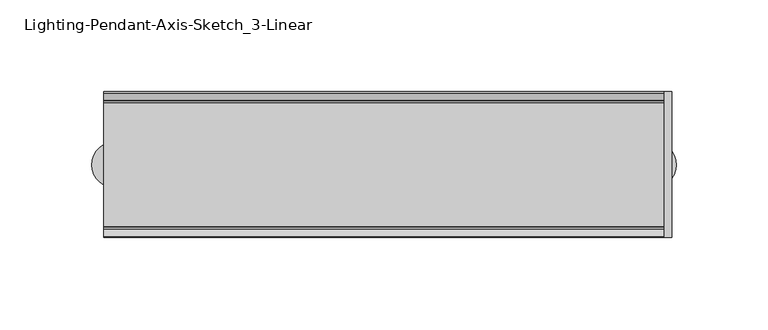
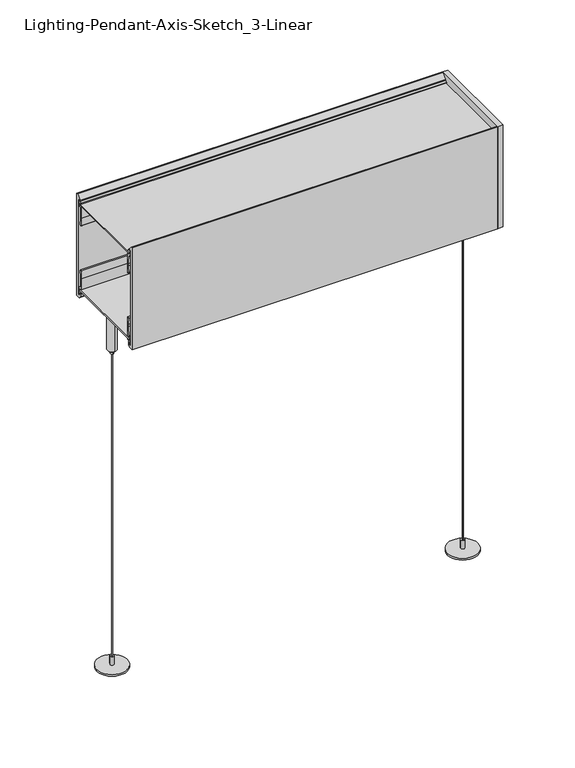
"""IFC4 building model written with IfcOpenShell, lengths in millimetres: light fixture geometry, Lighting-Pendant-Axis-Sketch_3-Linear : SK3PD-L-4-1300-80-35-SO."""

import ifcopenshell
import ifcopenshell.guid

model = None  # the IFC model being written
_history = None  # IfcOwnerHistory: only IFC2X3 demands one
_inside = {}  # id of a spatial element -> (the spatial element, [elements in it])
_under = {}  # id of a project, library or spatial element -> (it, [spatial elements below it])
_declared = {}  # id of a project -> (the project, [libraries it declares])
_typed = {}  # id of a type object -> (the type object, [elements of that type])
_made_of = {}  # id of a material, layer set ... -> (it, [elements and type objects made of it])


def new_model(schema):
    """Start an empty IFC model of exactly this schema.

    Asked for "IFC4X3", IfcOpenShell would pick the latest addendum, in which some entities
    have other attributes; the version numbers below select the first issue.
    IFC2X3 requires an IfcOwnerHistory on every rooted entity: one is made here for all.
    """
    global model, _history
    if schema == "IFC4X3":
        model = ifcopenshell.file(schema_version=(4, 3, 0, 0))
    else:
        model = ifcopenshell.file(schema=schema)
    _inside.clear()
    _under.clear()
    _declared.clear()
    _typed.clear()
    _made_of.clear()
    _history = None
    if model.schema == "IFC2X3":
        org = make("IfcOrganization", Name="unknown")
        user = make(
            "IfcPersonAndOrganization",
            ThePerson=make("IfcPerson", FamilyName="unknown"),
            TheOrganization=org,
        )
        app = make(
            "IfcApplication",
            ApplicationDeveloper=org,
            Version="unknown",
            ApplicationFullName="unknown",
            ApplicationIdentifier="unknown",
        )
        _history = make(
            "IfcOwnerHistory",
            OwningUser=user,
            OwningApplication=app,
            ChangeAction="ADDED",
            CreationDate=0,
        )
    return model


def make(cls, **values):
    """One entity of the class cls with the attributes given. An attribute that is None is left unset."""
    return model.create_entity(
        cls, **{name: value for name, value in values.items() if value is not None}
    )


def rooted(cls, **values):
    """An entity with a GlobalId (a new one), such as an element, a storey or a relation."""
    return make(cls, GlobalId=ifcopenshell.guid.new(), OwnerHistory=_history, **values)


def si_unit(unit_type, name, prefix=None):
    """IfcSIUnit, for example si_unit("LENGTHUNIT", "METRE", prefix="MILLI")."""
    return make("IfcSIUnit", UnitType=unit_type, Prefix=prefix, Name=name)


def assignment(units):
    """IfcUnitAssignment: the units of a project."""
    return None if units is None else make("IfcUnitAssignment", Units=units)


def point(xyz):
    """IfcCartesianPoint."""
    return None if xyz is None else make("IfcCartesianPoint", Coordinates=xyz)


def direction(xyz):
    """IfcDirection."""
    return None if xyz is None else make("IfcDirection", DirectionRatios=xyz)


def frame(location, z_axis=None, x_axis=None):
    """IfcAxis2Placement3D, a coordinate frame: its origin and axes. An axis left out is left unset."""
    return make(
        "IfcAxis2Placement3D",
        Location=point(location),
        Axis=direction(z_axis),
        RefDirection=direction(x_axis),
    )


def frame_2d(location, x_axis=None):
    """IfcAxis2Placement2D, a coordinate frame in the plane: its origin and x axis."""
    return make(
        "IfcAxis2Placement2D", Location=point(location), RefDirection=direction(x_axis)
    )


def origin():
    """The frame at (0, 0, 0) with its axes left unset."""
    return frame((0.0, 0.0, 0.0))


def origin_with_axes():
    """The frame at (0, 0, 0) with the z axis (0, 0, 1) and the x axis (1, 0, 0) written out."""
    return frame((0.0, 0.0, 0.0), z_axis=(0.0, 0.0, 1.0), x_axis=(1.0, 0.0, 0.0))


def place(relative_to, where):
    """IfcLocalPlacement: puts the frame where relative to a parent placement (None: the world)."""
    return make(
        "IfcLocalPlacement", PlacementRelTo=relative_to, RelativePlacement=where
    )


def context(
    kind, dimensions, precision=None, world=None, true_north=None, identifier=None
):
    """IfcGeometricRepresentationContext, for example the 3D "Model" context."""
    return make(
        "IfcGeometricRepresentationContext",
        ContextIdentifier=identifier,
        ContextType=kind,
        CoordinateSpaceDimension=dimensions,
        Precision=precision,
        WorldCoordinateSystem=world,
        TrueNorth=true_north,
    )


def project(units=None, contexts=None):
    """IfcProject with its units and contexts."""
    return rooted(
        "IfcProject",
        Name="project",
        RepresentationContexts=contexts,
        UnitsInContext=assignment(units),
    )


def spatial(cls, under=None, at=None, **own):
    """A site, building, storey or space (cls), placed at a placement, below another one or the project."""
    s = rooted(cls, ObjectPlacement=at, **own)
    if under is not None:
        _under.setdefault(under.id(), (under, []))[1].append(s)
    return s


def polyline(points):
    """IfcPolyline through the points."""
    return make("IfcPolyline", Points=[point(p) for p in points])


def circle_curve(where, radius):
    """IfcCircle in the frame where."""
    return make("IfcCircle", Position=where, Radius=radius)


def trimmed(basis, trim1, trim2, sense, master):
    """IfcTrimmedCurve: the piece of a basis curve between two trims."""
    return make(
        "IfcTrimmedCurve",
        BasisCurve=basis,
        Trim1=trim1,
        Trim2=trim2,
        SenseAgreement=sense,
        MasterRepresentation=master,
    )


def segment(curve, same_sense, transition):
    """IfcCompositeCurveSegment."""
    return make(
        "IfcCompositeCurveSegment",
        Transition=transition,
        SameSense=same_sense,
        ParentCurve=curve,
    )


def composite_curve(segments, self_intersect=None):
    """IfcCompositeCurve: segments joined end to end."""
    return make("IfcCompositeCurve", Segments=segments, SelfIntersect=self_intersect)


def outline(outer, holes=None, kind="AREA"):
    """IfcArbitraryClosedProfileDef: a profile drawn as a closed curve; with holes, ...WithVoids."""
    if holes is None:
        return make("IfcArbitraryClosedProfileDef", ProfileType=kind, OuterCurve=outer)
    return make(
        "IfcArbitraryProfileDefWithVoids",
        ProfileType=kind,
        OuterCurve=outer,
        InnerCurves=holes,
    )


def extrude(swept, where, along, depth):
    """IfcExtrudedAreaSolid: the profile swept, set in the frame where, extruded along a direction by depth."""
    return make(
        "IfcExtrudedAreaSolid",
        SweptArea=swept,
        Position=where,
        ExtrudedDirection=direction(along),
        Depth=depth,
    )


def shape(context_of_items, identifier, shape_type, items):
    """IfcShapeRepresentation: the items that make up one representation, for example the "Body"."""
    return make(
        "IfcShapeRepresentation",
        ContextOfItems=context_of_items,
        RepresentationIdentifier=identifier,
        RepresentationType=shape_type,
        Items=items,
    )


def source(mapping_origin, context_of_items, identifier, shape_type, items):
    """IfcRepresentationMap: a shape defined once, which mapped items show again and again."""
    return make(
        "IfcRepresentationMap",
        MappingOrigin=mapping_origin,
        MappedRepresentation=shape(context_of_items, identifier, shape_type, items),
    )


def transform(
    local_origin,
    x_axis=None,
    y_axis=None,
    z_axis=None,
    scale=None,
    scale2=None,
    scale3=None,
    uniform=True,
):
    """IfcCartesianTransformationOperator3D, or its non-uniform kind. x_axis, y_axis, z_axis: its Axis1, 2, 3."""
    if uniform:
        return make(
            "IfcCartesianTransformationOperator3D",
            Axis1=direction(x_axis),
            Axis2=direction(y_axis),
            LocalOrigin=point(local_origin),
            Scale=scale,
            Axis3=direction(z_axis),
        )
    return make(
        "IfcCartesianTransformationOperator3DnonUniform",
        Axis1=direction(x_axis),
        Axis2=direction(y_axis),
        LocalOrigin=point(local_origin),
        Scale=scale,
        Axis3=direction(z_axis),
        Scale2=scale2,
        Scale3=scale3,
    )


def mapped(mapping_source, mapping_target):
    """IfcMappedItem: shows the shape of a source again, moved by a transform."""
    return make(
        "IfcMappedItem", MappingSource=mapping_source, MappingTarget=mapping_target
    )


def made_of(thing, what):
    """Note that an element or type object is made of a material, layer set ...; save() writes the relation."""
    if what is not None:
        _made_of.setdefault(what.id(), (what, []))[1].append(thing)
    return thing


def element(
    cls,
    number,
    at=None,
    inside=None,
    cuts=None,
    type_object=None,
    material=None,
    context=None,
    identifier="Body",
    shape_type=None,
    held_by="IfcProductDefinitionShape",
    body=None,
    shapes=None,
    **own,
):
    """One element of the class cls, such as IfcWall. Its Tag is "e" and its number.

    at: its placement. inside: the storey or other place that contains it. cuts: it is an
    opening in that element (IfcRelVoidsElement). A single representation is given by context,
    identifier, shape_type and body (its items); several are given by shapes. held_by: the class
    of the entity that holds the representations. save() writes the other relations.
    """
    e = rooted(cls, Tag="e%d" % number, ObjectPlacement=at, **own)
    if body is not None:
        shapes = [shape(context, identifier, shape_type, body)]
    if shapes is not None:
        e.Representation = make(held_by, Representations=shapes)
    if inside is not None:
        _inside.setdefault(inside.id(), (inside, []))[1].append(e)
    if cuts is not None:
        rooted(
            "IfcRelVoidsElement", RelatingBuildingElement=cuts, RelatedOpeningElement=e
        )
    if type_object is not None:
        _typed.setdefault(type_object.id(), (type_object, []))[1].append(e)
    return made_of(e, material)


def aggregate(whole, parts):
    """IfcRelAggregates: a whole, such as a stair, and the parts it consists of."""
    return rooted("IfcRelAggregates", RelatingObject=whole, RelatedObjects=parts)


def save(model, path):
    """Write the relations noted so far, then the file.

    IfcRelAggregates (storeys below a building ...), IfcRelContainedInSpatialStructure (elements
    in a storey), IfcRelDefinesByType, IfcRelAssociatesMaterial and IfcRelDeclares: one each for
    every whole, place, type object, material and project.
    """
    for whole, parts in _under.values():
        aggregate(whole, parts)
    for where, things in _inside.values():
        rooted(
            "IfcRelContainedInSpatialStructure",
            RelatedElements=things,
            RelatingStructure=where,
        )
    for kind, things in _typed.values():
        rooted("IfcRelDefinesByType", RelatedObjects=things, RelatingType=kind)
    for what, things in _made_of.values():
        rooted("IfcRelAssociatesMaterial", RelatedObjects=things, RelatingMaterial=what)
    for by, libraries in _declared.values():
        rooted("IfcRelDeclares", RelatingContext=by, RelatedDefinitions=libraries)
    model.write(path)


def plane_surface(at):
    """IfcPlane: the flat surface through the origin of the frame at, square to its z axis."""
    return make("IfcPlane", Position=at)


def cylinder_surface(at, radius):
    """IfcCylindricalSurface: all points at the distance radius from the z axis of the frame at."""
    return make("IfcCylindricalSurface", Position=at, Radius=radius)


def advanced_brep(points, edges, surfaces, faces):
    """IfcAdvancedBrep: a solid bounded by faces that lie on surfaces and meet in shared edges.

    An edge is (start, end): straight between two places in points (the first is 0);
    or (start, end, curve); or (start, end, curve, False) where it runs against its curve.
    A face is (place in surfaces, loops), or (place, loops, False) where it looks against
    its surface's normal. A loop lists edges by number (the first is 1), with a minus sign
    where the edge is run from its end to its start. The first loop is the outer one.
    """
    corners = [point(p) for p in points]
    vertices = [make("IfcVertexPoint", VertexGeometry=c) for c in corners]
    made = []
    for start, end, *more in edges:
        made.append(
            make(
                "IfcEdgeCurve",
                EdgeStart=vertices[start],
                EdgeEnd=vertices[end],
                EdgeGeometry=more[0] if more else make("IfcPolyline", Points=[corners[start], corners[end]]),
                SameSense=more[1] if len(more) > 1 else True,
            )
        )
    hull = []
    for where, loops, *sense in faces:
        bounds = []
        for j, loop in enumerate(loops):
            ring = [make("IfcOrientedEdge", EdgeElement=made[abs(k) - 1], Orientation=k > 0) for k in loop]
            bounds.append(
                make(
                    "IfcFaceOuterBound" if j == 0 else "IfcFaceBound",
                    Bound=make("IfcEdgeLoop", EdgeList=ring),
                    Orientation=True,
                )
            )
        hull.append(make("IfcAdvancedFace", Bounds=bounds, FaceSurface=surfaces[where], SameSense=sense[0] if sense else True))
    return make("IfcAdvancedBrep", Outer=make("IfcClosedShell", CfsFaces=hull))


def lighting_pendant_axis_sketch_3_linear_22eb64dc(model_context):
    return source(origin(), model_context, "Body", "SolidModel", [
        extrude(outline(polyline([(156.5529, -39.6875), (152.4, -39.6875), (152.4, 39.6875), (156.5529, 39.6875), (156.5529, -39.6875)])), frame((0.0, 0.0, 304.8), z_axis=(0.0, 0.0, 1.0), x_axis=(1.0, 0.0, 0.0)), (0.0, 0.0, 1.0), 89.70518),
        extrude(outline(composite_curve([segment(trimmed(circle_curve(frame_2d((146.05, 0.0)), 0.396875), [point((145.653125, 0.0))], [point((146.446875, 0.0))], False, "CARTESIAN"), True, "CONTINUOUS"), segment(trimmed(circle_curve(frame_2d((146.05, 0.0)), 0.396875), [point((146.446875, 0.0))], [point((145.653125, 0.0))], False, "CARTESIAN"), True, "CONTINUOUS")], self_intersect=False)), frame((0.0, 0.0, 9.525), z_axis=(0.0, 0.0, 1.0), x_axis=(1.0, 0.0, 0.0)), (0.0, 0.0, 1.0), 295.275),
        advanced_brep(
        [(146.05, 1.2, 278.3008521), (146.05, -1.2, 278.3008521), (146.05, -2.95625, 278.3008521), (146.05, 2.95625, 278.3008521), (146.05, 1.2, 275.4508521), (146.05, -1.2, 275.4508521), (146.05, 0.0, 275.4508521), (146.05, 3.75, 311.2364681), (146.05, -3.75, 311.2364681), (146.05, 0.0, 311.2364681), (146.05, 3.75, 279.3008521), (146.05, -3.75, 279.3008521), (146.05, 2.95625, 279.3008521), (146.05, -2.95625, 279.3008521)],
        [
            (0, 1, circle_curve(frame((146.05, 0.0, 278.3008521), z_axis=(0.0, 0.0, 1.0), x_axis=(0.0, -1.0, 0.0)), 1.2)),
            (1, 2),
            (2, 3, circle_curve(frame((146.05, 0.0, 278.3008521), z_axis=(0.0, 0.0, -1.0), x_axis=(0.0, -1.0, 0.0)), 2.95625)),
            (3, 0),
            (1, 0, circle_curve(frame((146.05, 0.0, 278.3008521), z_axis=(0.0, 0.0, 1.0), x_axis=(0.0, -1.0, 0.0)), 1.2)),
            (3, 2, circle_curve(frame((146.05, 0.0, 278.3008521), z_axis=(0.0, 0.0, -1.0), x_axis=(0.0, -1.0, 0.0)), 2.95625)),
            (4, 5, circle_curve(frame((146.05, 0.0, 275.4508521), z_axis=(0.0, 0.0, 1.0), x_axis=(0.0, -1.0, 0.0)), 1.2)),
            (5, 1),
            (0, 4),
            (5, 4, circle_curve(frame((146.05, 0.0, 275.4508521), z_axis=(0.0, 0.0, 1.0), x_axis=(0.0, -1.0, 0.0)), 1.2)),
            (6, 5),
            (4, 6),
            (7, 8, circle_curve(frame((146.05, 0.0, 311.2364681), z_axis=(0.0, 0.0, 1.0), x_axis=(0.0, -1.0, 0.0)), 3.75)),
            (8, 9),
            (9, 7),
            (8, 7, circle_curve(frame((146.05, 0.0, 311.2364681), z_axis=(0.0, 0.0, 1.0), x_axis=(0.0, -1.0, 0.0)), 3.75)),
            (10, 11, circle_curve(frame((146.05, 0.0, 279.3008521), z_axis=(0.0, 0.0, 1.0), x_axis=(0.0, -1.0, 0.0)), 3.75)),
            (11, 8),
            (7, 10),
            (11, 10, circle_curve(frame((146.05, 0.0, 279.3008521), z_axis=(0.0, 0.0, 1.0), x_axis=(0.0, -1.0, 0.0)), 3.75)),
            (12, 13, circle_curve(frame((146.05, 0.0, 279.3008521), z_axis=(0.0, 0.0, 1.0), x_axis=(0.0, -1.0, 0.0)), 2.95625)),
            (13, 11),
            (10, 12),
            (13, 12, circle_curve(frame((146.05, 0.0, 279.3008521), z_axis=(0.0, 0.0, 1.0), x_axis=(0.0, -1.0, 0.0)), 2.95625)),
            (2, 13),
            (12, 3),
        ],
        [
            plane_surface(frame((146.05, 0.0, 278.3008521), z_axis=(0.0, 0.0, -1.0), x_axis=(0.0, -1.0, 0.0))),
            cylinder_surface(frame((146.05, 0.0, 2343.8067943), z_axis=(0.0, 0.0, -1.0), x_axis=(0.0, -1.0, 0.0)), 1.2),
            plane_surface(frame((146.05, 0.0, 275.4508521), z_axis=(0.0, 0.0, -1.0), x_axis=(0.0, -1.0, 0.0))),
            plane_surface(frame((146.05, 0.0, 311.2364681), z_axis=(0.0, 0.0, 1.0), x_axis=(0.0, -1.0, 0.0))),
            cylinder_surface(frame((146.05, 0.0, 2343.8067943), z_axis=(0.0, 0.0, -1.0), x_axis=(0.0, -1.0, 0.0)), 3.75),
            plane_surface(frame((146.05, 0.0, 279.3008521), z_axis=(0.0, 0.0, -1.0), x_axis=(0.0, -1.0, 0.0))),
            cylinder_surface(frame((146.05, 0.0, 2343.8067943), z_axis=(0.0, 0.0, -1.0), x_axis=(0.0, -1.0, 0.0)), 2.95625),
        ],
        [
            (0, [[1, 2, 3, 4]]),
            (0, [[5, -4, 6, -2]]),
            (1, [[7, 8, -1, 9]]),
            (1, [[10, -9, -5, -8]]),
            (2, [[11, -7, 12]]),
            (2, [[-12, -10, -11]]),
            (3, [[13, 14, 15]]),
            (3, [[16, -15, -14]]),
            (4, [[17, 18, -13, 19]]),
            (4, [[20, -19, -16, -18]]),
            (5, [[21, 22, -17, 23]]),
            (5, [[24, -23, -20, -22]]),
            (6, [[-3, 25, -21, 26]]),
            (6, [[-6, -26, -24, -25]]),
        ],
    ),
        extrude(outline(composite_curve([segment(trimmed(circle_curve(frame_2d((146.05, 0.0)), 12.7), [point((133.35, 0.0))], [point((158.75, 0.0))], False, "CARTESIAN"), True, "CONTINUOUS"), segment(trimmed(circle_curve(frame_2d((146.05, 0.0)), 12.7), [point((158.75, 0.0))], [point((133.35, 0.0))], False, "CARTESIAN"), True, "CONTINUOUS")], self_intersect=False)), origin_with_axes(), (0.0, 0.0, 1.0), 1.5875),
        extrude(outline(composite_curve([segment(trimmed(circle_curve(frame_2d((146.05, 0.0)), 1.5875), [point((144.4625, 0.0))], [point((147.6375, 0.0))], False, "CARTESIAN"), True, "CONTINUOUS"), segment(trimmed(circle_curve(frame_2d((146.05, 0.0)), 1.5875), [point((147.6375, 0.0))], [point((144.4625, 0.0))], False, "CARTESIAN"), True, "CONTINUOUS")], self_intersect=False)), frame((0.0, 0.0, 1.5875), z_axis=(0.0, 0.0, 1.0), x_axis=(1.0, 0.0, 0.0)), (0.0, 0.0, 1.0), 7.9375),
        extrude(outline(composite_curve([segment(trimmed(circle_curve(frame_2d((-146.05, 0.0)), 0.396875), [point((-146.446875, 0.0))], [point((-145.653125, 0.0))], False, "CARTESIAN"), True, "CONTINUOUS"), segment(trimmed(circle_curve(frame_2d((-146.05, 0.0)), 0.396875), [point((-145.653125, 0.0))], [point((-146.446875, 0.0))], False, "CARTESIAN"), True, "CONTINUOUS")], self_intersect=False)), frame((0.0, 0.0, 9.525), z_axis=(0.0, 0.0, 1.0), x_axis=(1.0, 0.0, 0.0)), (0.0, 0.0, 1.0), 295.275),
        advanced_brep(
        [(-146.05, 1.2, 278.3008521), (-146.05, -1.2, 278.3008521), (-146.05, -2.95625, 278.3008521), (-146.05, 2.95625, 278.3008521), (-146.05, 1.2, 275.4508521), (-146.05, -1.2, 275.4508521), (-146.05, 0.0, 275.4508521), (-146.05, 3.75, 311.2364681), (-146.05, -3.75, 311.2364681), (-146.05, 0.0, 311.2364681), (-146.05, 3.75, 279.3008521), (-146.05, -3.75, 279.3008521), (-146.05, 2.95625, 279.3008521), (-146.05, -2.95625, 279.3008521)],
        [
            (0, 1, circle_curve(frame((-146.05, 0.0, 278.3008521), z_axis=(0.0, 0.0, 1.0), x_axis=(0.0, -1.0, 0.0)), 1.2)),
            (1, 2),
            (2, 3, circle_curve(frame((-146.05, 0.0, 278.3008521), z_axis=(0.0, 0.0, -1.0), x_axis=(0.0, -1.0, 0.0)), 2.95625)),
            (3, 0),
            (1, 0, circle_curve(frame((-146.05, 0.0, 278.3008521), z_axis=(0.0, 0.0, 1.0), x_axis=(0.0, -1.0, 0.0)), 1.2)),
            (3, 2, circle_curve(frame((-146.05, 0.0, 278.3008521), z_axis=(0.0, 0.0, -1.0), x_axis=(0.0, -1.0, 0.0)), 2.95625)),
            (4, 5, circle_curve(frame((-146.05, 0.0, 275.4508521), z_axis=(0.0, 0.0, 1.0), x_axis=(0.0, -1.0, 0.0)), 1.2)),
            (5, 1),
            (0, 4),
            (5, 4, circle_curve(frame((-146.05, 0.0, 275.4508521), z_axis=(0.0, 0.0, 1.0), x_axis=(0.0, -1.0, 0.0)), 1.2)),
            (6, 5),
            (4, 6),
            (7, 8, circle_curve(frame((-146.05, 0.0, 311.2364681), z_axis=(0.0, 0.0, 1.0), x_axis=(0.0, -1.0, 0.0)), 3.75)),
            (8, 9),
            (9, 7),
            (8, 7, circle_curve(frame((-146.05, 0.0, 311.2364681), z_axis=(0.0, 0.0, 1.0), x_axis=(0.0, -1.0, 0.0)), 3.75)),
            (10, 11, circle_curve(frame((-146.05, 0.0, 279.3008521), z_axis=(0.0, 0.0, 1.0), x_axis=(0.0, -1.0, 0.0)), 3.75)),
            (11, 8),
            (7, 10),
            (11, 10, circle_curve(frame((-146.05, 0.0, 279.3008521), z_axis=(0.0, 0.0, 1.0), x_axis=(0.0, -1.0, 0.0)), 3.75)),
            (12, 13, circle_curve(frame((-146.05, 0.0, 279.3008521), z_axis=(0.0, 0.0, 1.0), x_axis=(0.0, -1.0, 0.0)), 2.95625)),
            (13, 11),
            (10, 12),
            (13, 12, circle_curve(frame((-146.05, 0.0, 279.3008521), z_axis=(0.0, 0.0, 1.0), x_axis=(0.0, -1.0, 0.0)), 2.95625)),
            (2, 13),
            (12, 3),
        ],
        [
            plane_surface(frame((-146.05, 0.0, 278.3008521), z_axis=(0.0, 0.0, -1.0), x_axis=(0.0, -1.0, 0.0))),
            cylinder_surface(frame((-146.05, 0.0, 2343.8067943), z_axis=(0.0, 0.0, -1.0), x_axis=(0.0, -1.0, 0.0)), 1.2),
            plane_surface(frame((-146.05, 0.0, 275.4508521), z_axis=(0.0, 0.0, -1.0), x_axis=(0.0, -1.0, 0.0))),
            plane_surface(frame((-146.05, 0.0, 311.2364681), z_axis=(0.0, 0.0, 1.0), x_axis=(0.0, -1.0, 0.0))),
            cylinder_surface(frame((-146.05, 0.0, 2343.8067943), z_axis=(0.0, 0.0, -1.0), x_axis=(0.0, -1.0, 0.0)), 3.75),
            plane_surface(frame((-146.05, 0.0, 279.3008521), z_axis=(0.0, 0.0, -1.0), x_axis=(0.0, -1.0, 0.0))),
            cylinder_surface(frame((-146.05, 0.0, 2343.8067943), z_axis=(0.0, 0.0, -1.0), x_axis=(0.0, -1.0, 0.0)), 2.95625),
        ],
        [
            (0, [[1, 2, 3, 4]]),
            (0, [[5, -4, 6, -2]]),
            (1, [[7, 8, -1, 9]]),
            (1, [[10, -9, -5, -8]]),
            (2, [[11, -7, 12]]),
            (2, [[-12, -10, -11]]),
            (3, [[13, 14, 15]]),
            (3, [[16, -15, -14]]),
            (4, [[17, 18, -13, 19]]),
            (4, [[20, -19, -16, -18]]),
            (5, [[21, 22, -17, 23]]),
            (5, [[24, -23, -20, -22]]),
            (6, [[-3, 25, -21, 26]]),
            (6, [[-6, -26, -24, -25]]),
        ],
    ),
        extrude(outline(composite_curve([segment(trimmed(circle_curve(frame_2d((-146.05, 0.0)), 12.7), [point((-158.75, 0.0))], [point((-133.35, 0.0))], False, "CARTESIAN"), True, "CONTINUOUS"), segment(trimmed(circle_curve(frame_2d((-146.05, 0.0)), 12.7), [point((-133.35, 0.0))], [point((-158.75, 0.0))], False, "CARTESIAN"), True, "CONTINUOUS")], self_intersect=False)), origin_with_axes(), (0.0, 0.0, 1.0), 1.5875),
        extrude(outline(composite_curve([segment(trimmed(circle_curve(frame_2d((-146.05, 0.0)), 1.5875), [point((-147.6375, 0.0))], [point((-144.4625, 0.0))], False, "CARTESIAN"), True, "CONTINUOUS"), segment(trimmed(circle_curve(frame_2d((-146.05, 0.0)), 1.5875), [point((-144.4625, 0.0))], [point((-147.6375, 0.0))], False, "CARTESIAN"), True, "CONTINUOUS")], self_intersect=False)), frame((0.0, 0.0, 1.5875), z_axis=(0.0, 0.0, 1.0), x_axis=(1.0, 0.0, 0.0)), (0.0, 0.0, 1.0), 7.9375),
        extrude(outline(polyline([(-152.4, -35.56), (-152.4, 35.56), (152.4, 35.56), (152.4, -35.56), (-152.4, -35.56)])), frame((0.0, 0.0, 311.2364681), z_axis=(0.0, 0.0, 1.0), x_axis=(1.0, 0.0, 0.0)), (0.0, 0.0, 1.0), 1.27),
        extrude(outline(polyline([(152.4, 35.56), (152.4, -35.56), (-152.4, -35.56), (-152.4, 35.56), (152.4, 35.56)])), frame((0.0, 0.0, 386.612403), z_axis=(0.0, 0.0, 1.0), x_axis=(1.0, 0.0, 0.0)), (0.0, 0.0, 1.0), 1.27),
        extrude(outline(polyline([(35.2425, 390.779), (38.89375, 394.5055795), (39.6875, 394.5055795), (39.6875, 304.8), (36.1315, 304.8), (34.6075, 306.324), (34.6075, 308.483), (35.8775, 308.483), (35.8775, 306.705), (37.7825, 306.705), (37.7825, 390.779), (35.2425, 390.779)])), frame((-152.4, 0.0, 0.0), z_axis=(1.0, 0.0, 0.0), x_axis=(0.0, 1.0, 0.0)), (0.0, 0.0, 1.0), 304.8),
        extrude(outline(composite_curve([segment(polyline([(34.4369494, 321.810257), (34.5887361, 314.1776256), (35.9859878, 314.1776256)]), True, "CONTINUOUS"), segment(trimmed(circle_curve(frame_2d((35.9859878, 313.3838756)), 0.79375), [point((35.9859878, 314.1776256))], [point((36.7779365, 313.3304311))], False, "CARTESIAN"), True, "CONTINUOUS"), segment(polyline([(36.7779365, 313.3304311), (36.5675604, 310.2130412)]), True, "CONTINUOUS"), segment(trimmed(circle_curve(frame_2d((35.1426868, 310.3177537)), 1.428716), [point((36.5675604, 310.2130412))], [point((36.146856, 309.3014498))], False, "CARTESIAN"), True, "CONTINUOUS"), segment(trimmed(circle_curve(frame_2d((35.5073083, 309.7638115)), 0.7891766), [point((36.146856, 309.3014498))], [point((34.9129694, 309.244619))], False, "CARTESIAN"), True, "CONTINUOUS"), segment(polyline([(34.9129694, 309.244619), (33.9271376, 310.3731371)]), True, "CONTINUOUS"), segment(trimmed(circle_curve(frame_2d((34.3097188, 310.707346)), 0.508), [point((33.9271376, 310.3731371))], [point((34.3097188, 311.215346))], False, "CARTESIAN"), True, "CONTINUOUS"), segment(polyline([(34.3097188, 311.215346), (35.6168897, 311.215346), (35.7107202, 312.605743)]), True, "CONTINUOUS"), segment(trimmed(circle_curve(frame_2d((35.2038731, 312.6399474)), 0.508), [point((35.7107202, 312.605743))], [point((35.2380775, 313.1467946))], True, "CARTESIAN"), True, "CONTINUOUS"), segment(polyline([(35.2380775, 313.1467946), (33.5908242, 313.257959), (33.393867, 323.1620008), (33.6080539, 329.7549269)]), True, "CONTINUOUS"), segment(trimmed(circle_curve(frame_2d((34.115786, 329.7384321)), 0.508), [point((33.6080539, 329.7549269))], [point((34.6235182, 329.7219372))], False, "CARTESIAN"), True, "CONTINUOUS"), segment(polyline([(34.6235182, 329.7219372), (34.4338694, 323.8843227), (34.4369494, 321.810257)]), True, "CONTINUOUS")], self_intersect=False)), frame((-152.4, 0.0, 0.0), z_axis=(1.0, 0.0, 0.0), x_axis=(0.0, 1.0, 0.0)), (0.0, 0.0, 1.0), 304.8),
        extrude(outline(composite_curve([segment(polyline([(34.4369494, 377.4953225), (34.4338694, 375.4212568), (34.6235182, 369.5836423)]), True, "CONTINUOUS"), segment(trimmed(circle_curve(frame_2d((34.115786, 369.5671475)), 0.508), [point((34.6235182, 369.5836423))], [point((33.6080539, 369.5506526))], False, "CARTESIAN"), True, "CONTINUOUS"), segment(polyline([(33.6080539, 369.5506526), (33.393867, 376.1435787), (33.5908242, 386.0476205), (35.2380775, 386.1587849)]), True, "CONTINUOUS"), segment(trimmed(circle_curve(frame_2d((35.2038731, 386.6656321)), 0.508), [point((35.2380775, 386.1587849))], [point((35.7107202, 386.6998365))], True, "CARTESIAN"), True, "CONTINUOUS"), segment(polyline([(35.7107202, 386.6998365), (35.6168897, 388.0902335), (34.3097188, 388.0902335)]), True, "CONTINUOUS"), segment(trimmed(circle_curve(frame_2d((34.3097188, 388.5982335)), 0.508), [point((34.3097188, 388.0902335))], [point((33.9271376, 388.9324424))], False, "CARTESIAN"), True, "CONTINUOUS"), segment(polyline([(33.9271376, 388.9324424), (34.9129694, 390.0609605)]), True, "CONTINUOUS"), segment(trimmed(circle_curve(frame_2d((35.5073083, 389.541768)), 0.7891766), [point((34.9129694, 390.0609605))], [point((36.146856, 390.0041297))], False, "CARTESIAN"), True, "CONTINUOUS"), segment(trimmed(circle_curve(frame_2d((35.1426868, 388.9878258)), 1.428716), [point((36.146856, 390.0041297))], [point((36.5675604, 389.0925383))], False, "CARTESIAN"), True, "CONTINUOUS"), segment(polyline([(36.5675604, 389.0925383), (36.7779365, 385.9751484)]), True, "CONTINUOUS"), segment(trimmed(circle_curve(frame_2d((35.9859878, 385.9217039)), 0.79375), [point((36.7779365, 385.9751484))], [point((35.9859878, 385.1279539))], False, "CARTESIAN"), True, "CONTINUOUS"), segment(polyline([(35.9859878, 385.1279539), (34.5887361, 385.1279539), (34.4369494, 377.4953225)]), True, "CONTINUOUS")], self_intersect=False)), frame((-152.4, 0.0, 0.0), z_axis=(1.0, 0.0, 0.0), x_axis=(0.0, 1.0, 0.0)), (0.0, 0.0, 1.0), 304.8),
        extrude(outline(polyline([(-35.2425, 390.779), (-37.7825, 390.779), (-37.7825, 306.705), (-35.8775, 306.705), (-35.8775, 308.483), (-34.6075, 308.483), (-34.6075, 306.324), (-36.1315, 304.8), (-39.6875, 304.8), (-39.6875, 394.5055795), (-38.89375, 394.5055795), (-35.2425, 390.779)])), frame((-152.4, 0.0, 0.0), z_axis=(1.0, 0.0, 0.0), x_axis=(0.0, 1.0, 0.0)), (0.0, 0.0, 1.0), 304.8),
        extrude(outline(composite_curve([segment(polyline([(-34.4369494, 321.810257), (-34.4338694, 323.8843227), (-34.6235182, 329.7219372)]), True, "CONTINUOUS"), segment(trimmed(circle_curve(frame_2d((-34.115786, 329.7384321)), 0.508), [point((-34.6235182, 329.7219372))], [point((-33.6080539, 329.7549269))], False, "CARTESIAN"), True, "CONTINUOUS"), segment(polyline([(-33.6080539, 329.7549269), (-33.393867, 323.1620008), (-33.5908242, 313.257959), (-35.2380775, 313.1467946)]), True, "CONTINUOUS"), segment(trimmed(circle_curve(frame_2d((-35.2038731, 312.6399474)), 0.508), [point((-35.2380775, 313.1467946))], [point((-35.7107202, 312.605743))], True, "CARTESIAN"), True, "CONTINUOUS"), segment(polyline([(-35.7107202, 312.605743), (-35.6168897, 311.215346), (-34.3097188, 311.215346)]), True, "CONTINUOUS"), segment(trimmed(circle_curve(frame_2d((-34.3097188, 310.707346)), 0.508), [point((-34.3097188, 311.215346))], [point((-33.9271376, 310.3731371))], False, "CARTESIAN"), True, "CONTINUOUS"), segment(polyline([(-33.9271376, 310.3731371), (-34.9129694, 309.244619)]), True, "CONTINUOUS"), segment(trimmed(circle_curve(frame_2d((-35.5073083, 309.7638115)), 0.7891766), [point((-34.9129694, 309.244619))], [point((-36.146856, 309.3014498))], False, "CARTESIAN"), True, "CONTINUOUS"), segment(trimmed(circle_curve(frame_2d((-35.1426868, 310.3177537)), 1.428716), [point((-36.146856, 309.3014498))], [point((-36.5675604, 310.2130412))], False, "CARTESIAN"), True, "CONTINUOUS"), segment(polyline([(-36.5675604, 310.2130412), (-36.7779365, 313.3304311)]), True, "CONTINUOUS"), segment(trimmed(circle_curve(frame_2d((-35.9859878, 313.3838756)), 0.79375), [point((-36.7779365, 313.3304311))], [point((-35.9859878, 314.1776256))], False, "CARTESIAN"), True, "CONTINUOUS"), segment(polyline([(-35.9859878, 314.1776256), (-34.5887361, 314.1776256), (-34.4369494, 321.810257)]), True, "CONTINUOUS")], self_intersect=False)), frame((-152.4, 0.0, 0.0), z_axis=(1.0, 0.0, 0.0), x_axis=(0.0, 1.0, 0.0)), (0.0, 0.0, 1.0), 304.8),
        extrude(outline(composite_curve([segment(polyline([(-34.4369494, 377.4953225), (-34.5887361, 385.1279539), (-35.9859878, 385.1279539)]), True, "CONTINUOUS"), segment(trimmed(circle_curve(frame_2d((-35.9859878, 385.9217039)), 0.79375), [point((-35.9859878, 385.1279539))], [point((-36.7779365, 385.9751484))], False, "CARTESIAN"), True, "CONTINUOUS"), segment(polyline([(-36.7779365, 385.9751484), (-36.5675604, 389.0925383)]), True, "CONTINUOUS"), segment(trimmed(circle_curve(frame_2d((-35.1426868, 388.9878258)), 1.428716), [point((-36.5675604, 389.0925383))], [point((-36.146856, 390.0041297))], False, "CARTESIAN"), True, "CONTINUOUS"), segment(trimmed(circle_curve(frame_2d((-35.5073083, 389.541768)), 0.7891766), [point((-36.146856, 390.0041297))], [point((-34.9129694, 390.0609605))], False, "CARTESIAN"), True, "CONTINUOUS"), segment(polyline([(-34.9129694, 390.0609605), (-33.9271376, 388.9324424)]), True, "CONTINUOUS"), segment(trimmed(circle_curve(frame_2d((-34.3097188, 388.5982335)), 0.508), [point((-33.9271376, 388.9324424))], [point((-34.3097188, 388.0902335))], False, "CARTESIAN"), True, "CONTINUOUS"), segment(polyline([(-34.3097188, 388.0902335), (-35.6168897, 388.0902335), (-35.7107202, 386.6998365)]), True, "CONTINUOUS"), segment(trimmed(circle_curve(frame_2d((-35.2038731, 386.6656321)), 0.508), [point((-35.7107202, 386.6998365))], [point((-35.2380775, 386.1587849))], True, "CARTESIAN"), True, "CONTINUOUS"), segment(polyline([(-35.2380775, 386.1587849), (-33.5908242, 386.0476205), (-33.393867, 376.1435787), (-33.6080539, 369.5506526)]), True, "CONTINUOUS"), segment(trimmed(circle_curve(frame_2d((-34.115786, 369.5671475)), 0.508), [point((-33.6080539, 369.5506526))], [point((-34.6235182, 369.5836423))], False, "CARTESIAN"), True, "CONTINUOUS"), segment(polyline([(-34.6235182, 369.5836423), (-34.4338694, 375.4212568), (-34.4369494, 377.4953225)]), True, "CONTINUOUS")], self_intersect=False)), frame((-152.4, 0.0, 0.0), z_axis=(1.0, 0.0, 0.0), x_axis=(0.0, 1.0, 0.0)), (0.0, 0.0, 1.0), 304.8),
    ])


if __name__ == "__main__":
    model = new_model("IFC4")
    model_context = context("Model", 3, world=origin())
    ifc_project = project(units=[si_unit("LENGTHUNIT", "METRE", prefix="MILLI")], contexts=[model_context])
    site = spatial("IfcSite", under=ifc_project)
    building = spatial("IfcBuilding", under=site)
    placement = place(None, origin())
    lighting_pendant_axis_sketch_3_linear_shape = lighting_pendant_axis_sketch_3_linear_22eb64dc(model_context)
    element("IfcLightFixture", 1, ObjectType="Lighting-Pendant-Axis-Sketch_3-Linear : SK3PD-L-4-1300-80-35-SO", at=placement, inside=building, context=model_context, shape_type="MappedRepresentation", body=[
        mapped(lighting_pendant_axis_sketch_3_linear_shape, transform((0.0, 0.0, 0.0), x_axis=(1.0, 0.0, 0.0), y_axis=(0.0, 1.0, 0.0), z_axis=(0.0, 0.0, 1.0))),
    ])
    save(model, "model.ifc")
